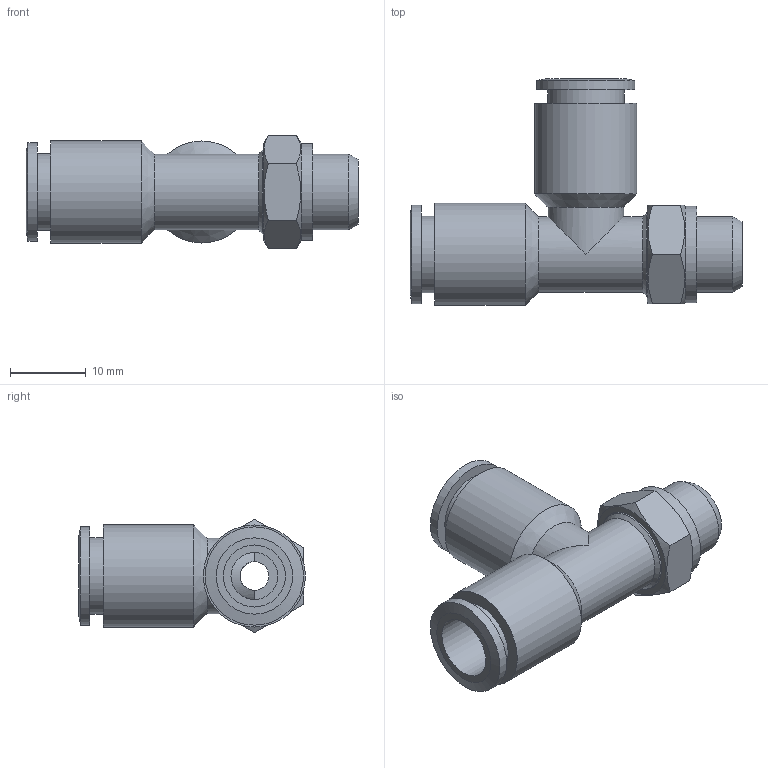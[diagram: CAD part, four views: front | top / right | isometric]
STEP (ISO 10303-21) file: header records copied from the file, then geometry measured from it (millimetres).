
FILE_DESCRIPTION((''),'2;1');
FILE_NAME('C:\Documents and Settings\rivolro1\Documenti\copia di Raccordi\PLASTICA\T21XXXX\T210818.stp','2007-11-02T08:39:42',('Rivolro1'),(''),'Autodesk Inventor 2008','Autodesk Inventor 2008','');
FILE_SCHEMA(('AUTOMOTIVE_DESIGN { 1 0 10303 214 1 1 1 1 }'));
Length unit declared in the file: millimetre
Products named in the file (1): T210818
Bounding box: 43.9 x 30 x 15.01 mm (x, y, z)
Volume: 4974.4 mm3; surface area: 4365.7 mm2
Topology: 1 solids, 1 shells, 51 faces, 102 edges, 65 vertices
Faces by surface type: cylinder 19, plane 19, cone 8, bspline 5
Full cylindrical faces by diameter (mm): 3.8 x1, 6.2 x2, 10 x3, 10.1 x2, 11 x1, 11.2 x1, 12.8 x1, 13 x2, 13.5 x2
Entity records: 1420 total; most frequent: CARTESIAN_POINT 416, DIRECTION 192, ORIENTED_EDGE 142, AXIS2_PLACEMENT_3D 91, EDGE_LOOP 90, EDGE_CURVE 71, VERTEX_POINT 59, FACE_OUTER_BOUND 51
